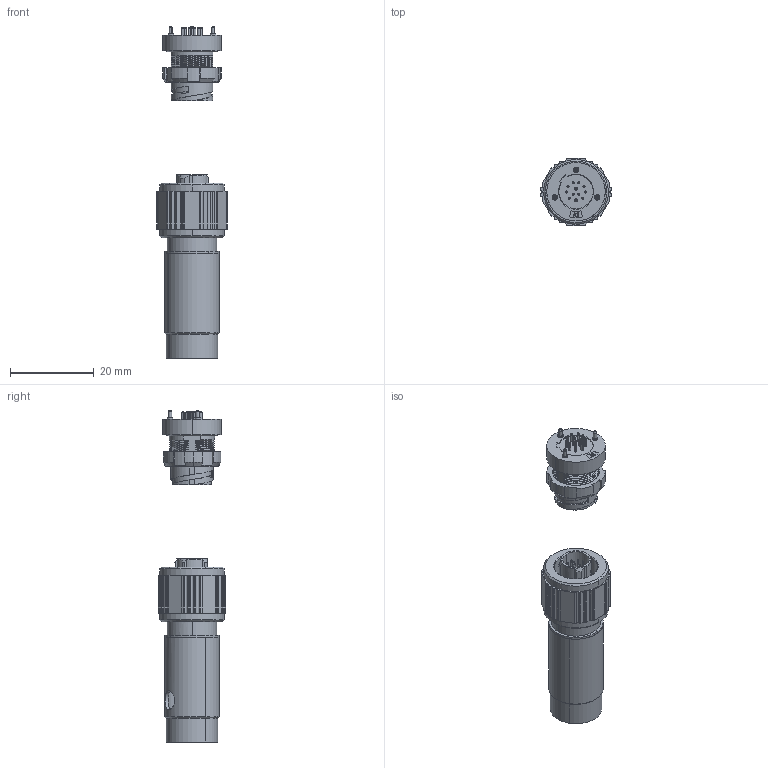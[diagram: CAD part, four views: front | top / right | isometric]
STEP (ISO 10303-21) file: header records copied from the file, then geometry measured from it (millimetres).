
FILE_DESCRIPTION (( 'STEP AP214' ), '1' );
FILE_NAME ('M10 connector.STEP', '2019-01-21T00:25:36', ( '' ), ( '' ), 'SwSTEP 2.0', 'SolidWorks 2018', '' );
FILE_SCHEMA (( 'AUTOMOTIVE_DESIGN' ));
Length unit declared in the file: millimetre
Products named in the file (1): M10 connector
Bounding box: 16.92 x 16.06 x 79.45 mm (x, y, z)
Volume: 5377.5 mm3; surface area: 7691.2 mm2
Topology: 10 solids, 10 shells, 1485 faces, 3701 edges, 2340 vertices
Faces by surface type: plane 529, cylinder 435, bspline 211, cone 186, torus 122, sphere 2
Entity records: 115067 total; most frequent: CARTESIAN_POINT 65440, ORIENTED_EDGE 7350, DIRECTION 6530, EDGE_CURVE 3675, AXIS2_PLACEMENT_3D 2426, VERTEX_POINT 2340, LINE 1678, VECTOR 1678
